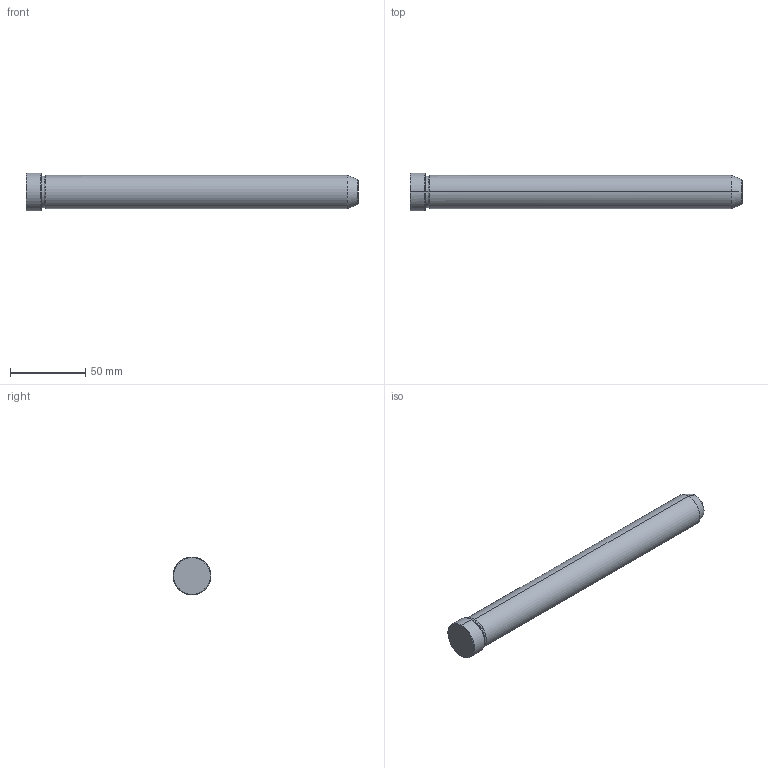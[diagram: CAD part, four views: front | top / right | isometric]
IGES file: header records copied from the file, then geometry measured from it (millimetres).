
Start section: START RECORD GO HERE.
Global section: file name: 549-22X220.igs; native system: DASSAULT SYSTEMES CATIA V5 R20 - www.3ds.com; preprocessor: CATIA Version 5 Release 20 ; author: Utente; organization: NB04-ASUS; date: 20211213.135550; units: millimetre
Bounding box: 220 x 25 x 25 mm (x, y, z)
Surface area: 16080.7 mm2 (no closed solid volume)
Topology: 0 solids, 0 shells, 19 faces, 112 edges, 112 vertices
Faces by surface type: revolution 16, plane 3
